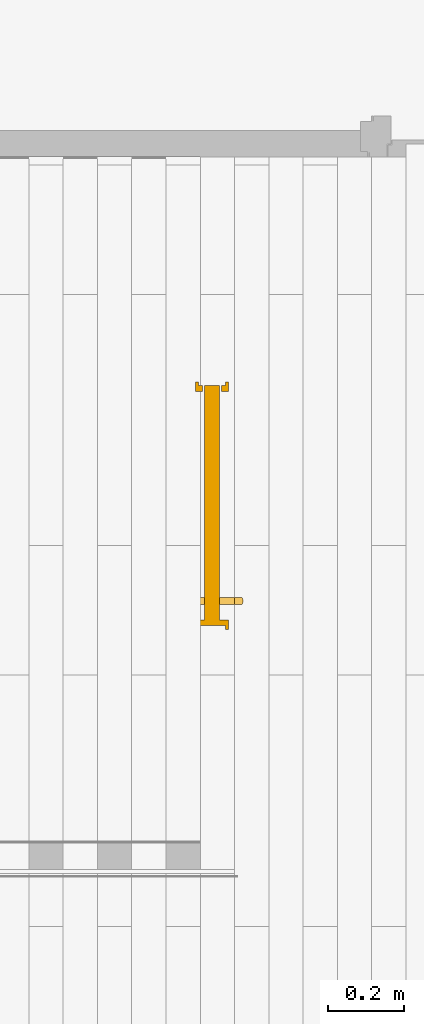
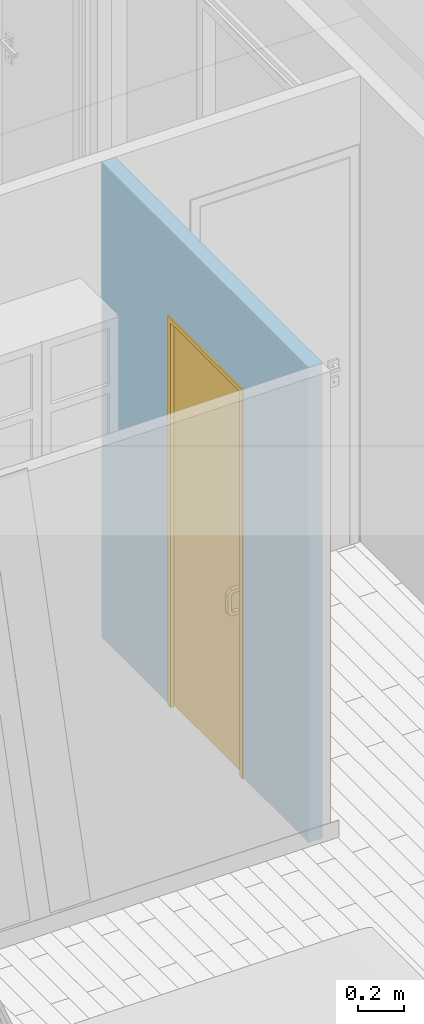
# One storey, part 49 of 61: 1 door, 1 opening, plus 1 element that does not belong to this part.
"""IFC2X3 building model written with IfcOpenShell, lengths in metres."""

import ifcopenshell
import ifcopenshell.guid

model = None  # the IFC model being written
_history = None  # IfcOwnerHistory: only IFC2X3 demands one
_inside = {}  # id of a spatial element -> (the spatial element, [elements in it])
_under = {}  # id of a project, library or spatial element -> (it, [spatial elements below it])
_declared = {}  # id of a project -> (the project, [libraries it declares])
_typed = {}  # id of a type object -> (the type object, [elements of that type])
_made_of = {}  # id of a material, layer set ... -> (it, [elements and type objects made of it])


def new_model(schema):
    """Start an empty IFC model of exactly this schema.

    Asked for "IFC4X3", IfcOpenShell would pick the latest addendum, in which some entities
    have other attributes; the version numbers below select the first issue.
    IFC2X3 requires an IfcOwnerHistory on every rooted entity: one is made here for all.
    """
    global model, _history
    if schema == "IFC4X3":
        model = ifcopenshell.file(schema_version=(4, 3, 0, 0))
    else:
        model = ifcopenshell.file(schema=schema)
    _inside.clear()
    _under.clear()
    _declared.clear()
    _typed.clear()
    _made_of.clear()
    _history = None
    if model.schema == "IFC2X3":
        org = make("IfcOrganization", Name="unknown")
        user = make(
            "IfcPersonAndOrganization",
            ThePerson=make("IfcPerson", FamilyName="unknown"),
            TheOrganization=org,
        )
        app = make(
            "IfcApplication",
            ApplicationDeveloper=org,
            Version="unknown",
            ApplicationFullName="unknown",
            ApplicationIdentifier="unknown",
        )
        _history = make(
            "IfcOwnerHistory",
            OwningUser=user,
            OwningApplication=app,
            ChangeAction="ADDED",
            CreationDate=0,
        )
    return model


def make(cls, **values):
    """One entity of the class cls with the attributes given. An attribute that is None is left unset."""
    return model.create_entity(
        cls, **{name: value for name, value in values.items() if value is not None}
    )


def entity(cls, *values):
    """Any entity or typed value of the class cls, its attributes in the order of the schema. None: left unset."""
    e = model.create_entity(cls)
    for i, value in enumerate(values):
        if value is not None:
            e[i] = value
    return e


def rooted(cls, **values):
    """An entity with a GlobalId (a new one), such as an element, a storey or a relation."""
    return make(cls, GlobalId=ifcopenshell.guid.new(), OwnerHistory=_history, **values)


def si_unit(unit_type, name, prefix=None):
    """IfcSIUnit, for example si_unit("LENGTHUNIT", "METRE", prefix="MILLI")."""
    return make("IfcSIUnit", UnitType=unit_type, Prefix=prefix, Name=name)


def converted_unit(unit_type, name, factor, base, dimensions=None, offset=None):
    """IfcConversionBasedUnit, such as the inch: factor (a typed value) times the base unit."""
    return make(
        "IfcConversionBasedUnit"
        if offset is None
        else "IfcConversionBasedUnitWithOffset",
        ConversionOffset=offset,
        Dimensions=None
        if dimensions is None
        else entity("IfcDimensionalExponents", *dimensions),
        UnitType=unit_type,
        Name=name,
        ConversionFactor=make(
            "IfcMeasureWithUnit", ValueComponent=factor, UnitComponent=base
        ),
    )


def derived_unit(unit_type, elements):
    """IfcDerivedUnit: a product of units, each with its exponent."""
    return make(
        "IfcDerivedUnit",
        Elements=[
            make("IfcDerivedUnitElement", Unit=unit, Exponent=power)
            for unit, power in elements
        ],
        UnitType=unit_type,
    )


def assignment(units):
    """IfcUnitAssignment: the units of a project."""
    return None if units is None else make("IfcUnitAssignment", Units=units)


def point(xyz):
    """IfcCartesianPoint."""
    return None if xyz is None else make("IfcCartesianPoint", Coordinates=xyz)


def direction(xyz):
    """IfcDirection."""
    return None if xyz is None else make("IfcDirection", DirectionRatios=xyz)


def frame(location, z_axis=None, x_axis=None):
    """IfcAxis2Placement3D, a coordinate frame: its origin and axes. An axis left out is left unset."""
    return make(
        "IfcAxis2Placement3D",
        Location=point(location),
        Axis=direction(z_axis),
        RefDirection=direction(x_axis),
    )


def frame_2d(location, x_axis=None):
    """IfcAxis2Placement2D, a coordinate frame in the plane: its origin and x axis."""
    return make(
        "IfcAxis2Placement2D", Location=point(location), RefDirection=direction(x_axis)
    )


def origin():
    """The frame at (0, 0, 0) with its axes left unset."""
    return frame((0.0, 0.0, 0.0))


def place(relative_to, where):
    """IfcLocalPlacement: puts the frame where relative to a parent placement (None: the world)."""
    return make(
        "IfcLocalPlacement", PlacementRelTo=relative_to, RelativePlacement=where
    )


def context(
    kind, dimensions, precision=None, world=None, true_north=None, identifier=None
):
    """IfcGeometricRepresentationContext, for example the 3D "Model" context."""
    return make(
        "IfcGeometricRepresentationContext",
        ContextIdentifier=identifier,
        ContextType=kind,
        CoordinateSpaceDimension=dimensions,
        Precision=precision,
        WorldCoordinateSystem=world,
        TrueNorth=true_north,
    )


def subcontext(parent, identifier, kind, view, scale=None):
    """IfcGeometricRepresentationSubContext, for example "Body" below "Model"."""
    return make(
        "IfcGeometricRepresentationSubContext",
        ContextIdentifier=identifier,
        ContextType=kind,
        ParentContext=parent,
        TargetScale=scale,
        TargetView=view,
    )


def project(units=None, contexts=None):
    """IfcProject with its units and contexts."""
    return rooted(
        "IfcProject",
        Name="project",
        RepresentationContexts=contexts,
        UnitsInContext=assignment(units),
    )


def spatial(cls, under=None, at=None, **own):
    """A site, building, storey or space (cls), placed at a placement, below another one or the project."""
    s = rooted(cls, ObjectPlacement=at, **own)
    if under is not None:
        _under.setdefault(under.id(), (under, []))[1].append(s)
    return s


def profile(cls, at=None, kind="AREA", **sizes):
    """A parametric profile (cls). Its sizes go by their IFC names, for example OverallWidth=200.0."""
    return make(cls, ProfileType=kind, Position=at, **sizes)


def rectangle(**sizes):
    """IfcRectangleProfileDef."""
    return profile("IfcRectangleProfileDef", **sizes)


def extrude(swept, where, along, depth):
    """IfcExtrudedAreaSolid: the profile swept, set in the frame where, extruded along a direction by depth."""
    return make(
        "IfcExtrudedAreaSolid",
        SweptArea=swept,
        Position=where,
        ExtrudedDirection=direction(along),
        Depth=depth,
    )


def faces_of(points, faces, orient=None, outer=None):
    """IfcFace entities. A face is a list of loops; a loop is a list of indices into points, from 0.

    orient and outer hold one flag for each loop. By default every Orientation is true, the
    first loop of a face is its IfcFaceOuterBound and the others are IfcFaceBound.
    """
    made = []
    for i, loops in enumerate(faces):
        bounds = []
        for j, loop in enumerate(loops):
            is_outer = j == 0 if outer is None else outer[i][j]
            bounds.append(
                make(
                    "IfcFaceOuterBound" if is_outer else "IfcFaceBound",
                    Bound=make("IfcPolyLoop", Polygon=[points[k] for k in loop]),
                    Orientation=True if orient is None else orient[i][j],
                )
            )
        made.append(make("IfcFace", Bounds=bounds))
    return made


def faceted_brep(points, faces, orient=None, outer=None, voids=None):
    """IfcFacetedBrep: a solid bounded by flat faces; with voids (closed shells), ...WithVoids."""
    shared = [point(p) for p in points]
    hull = make("IfcClosedShell", CfsFaces=faces_of(shared, faces, orient, outer))
    if voids is None:
        return make("IfcFacetedBrep", Outer=hull)
    return make(
        "IfcFacetedBrepWithVoids",
        Outer=hull,
        Voids=[
            make(cls, CfsFaces=faces_of(shared, fs, o, b)) for cls, fs, o, b in voids
        ],
    )


def shape(context_of_items, identifier, shape_type, items):
    """IfcShapeRepresentation: the items that make up one representation, for example the "Body"."""
    return make(
        "IfcShapeRepresentation",
        ContextOfItems=context_of_items,
        RepresentationIdentifier=identifier,
        RepresentationType=shape_type,
        Items=items,
    )


def source(mapping_origin, context_of_items, identifier, shape_type, items):
    """IfcRepresentationMap: a shape defined once, which mapped items show again and again."""
    return make(
        "IfcRepresentationMap",
        MappingOrigin=mapping_origin,
        MappedRepresentation=shape(context_of_items, identifier, shape_type, items),
    )


def transform(
    local_origin,
    x_axis=None,
    y_axis=None,
    z_axis=None,
    scale=None,
    scale2=None,
    scale3=None,
    uniform=True,
):
    """IfcCartesianTransformationOperator3D, or its non-uniform kind. x_axis, y_axis, z_axis: its Axis1, 2, 3."""
    if uniform:
        return make(
            "IfcCartesianTransformationOperator3D",
            Axis1=direction(x_axis),
            Axis2=direction(y_axis),
            LocalOrigin=point(local_origin),
            Scale=scale,
            Axis3=direction(z_axis),
        )
    return make(
        "IfcCartesianTransformationOperator3DnonUniform",
        Axis1=direction(x_axis),
        Axis2=direction(y_axis),
        LocalOrigin=point(local_origin),
        Scale=scale,
        Axis3=direction(z_axis),
        Scale2=scale2,
        Scale3=scale3,
    )


def mapped(mapping_source, mapping_target):
    """IfcMappedItem: shows the shape of a source again, moved by a transform."""
    return make(
        "IfcMappedItem", MappingSource=mapping_source, MappingTarget=mapping_target
    )


def material(Name=None, Category=None):
    """IfcMaterial."""
    return make("IfcMaterial", Name=Name, Category=Category)


def material_list(materials):
    """IfcMaterialList."""
    return make("IfcMaterialList", Materials=materials)


def layer(
    of_material, thickness, ventilated=None, Name=None, Category=None, Priority=None
):
    """IfcMaterialLayer: one layer of a wall or slab, of a material (None: an air gap)."""
    return make(
        "IfcMaterialLayer",
        Material=of_material,
        LayerThickness=thickness,
        IsVentilated=ventilated,
        Name=Name,
        Category=Category,
        Priority=Priority,
    )


def layer_set(layers, Name=None):
    """IfcMaterialLayerSet."""
    return make("IfcMaterialLayerSet", MaterialLayers=layers, LayerSetName=Name)


def layer_usage(for_layer_set, set_direction, sense, offset, extent=None):
    """IfcMaterialLayerSetUsage: how a layer set lies in its element."""
    return make(
        "IfcMaterialLayerSetUsage",
        ForLayerSet=for_layer_set,
        LayerSetDirection=set_direction,
        DirectionSense=sense,
        OffsetFromReferenceLine=offset,
        ReferenceExtent=extent,
    )


def made_of(thing, what):
    """Note that an element or type object is made of a material, layer set ...; save() writes the relation."""
    if what is not None:
        _made_of.setdefault(what.id(), (what, []))[1].append(thing)
    return thing


def type_object(cls, material=None, **own):
    """A type object (cls), such as IfcWallType, which elements share."""
    return made_of(rooted(cls, **own), material)


def type_shapes(of_type, sources):
    """Give a type object the sources (RepresentationMaps) that its elements show as mapped items."""
    of_type.RepresentationMaps = sources


def element(
    cls,
    number,
    at=None,
    inside=None,
    cuts=None,
    type_object=None,
    material=None,
    context=None,
    identifier="Body",
    shape_type=None,
    held_by="IfcProductDefinitionShape",
    body=None,
    shapes=None,
    **own,
):
    """One element of the class cls, such as IfcWall. Its Tag is "e" and its number.

    at: its placement. inside: the storey or other place that contains it. cuts: it is an
    opening in that element (IfcRelVoidsElement). A single representation is given by context,
    identifier, shape_type and body (its items); several are given by shapes. held_by: the class
    of the entity that holds the representations. save() writes the other relations.
    """
    e = rooted(cls, Tag="e%d" % number, ObjectPlacement=at, **own)
    if body is not None:
        shapes = [shape(context, identifier, shape_type, body)]
    if shapes is not None:
        e.Representation = make(held_by, Representations=shapes)
    if inside is not None:
        _inside.setdefault(inside.id(), (inside, []))[1].append(e)
    if cuts is not None:
        rooted(
            "IfcRelVoidsElement", RelatingBuildingElement=cuts, RelatedOpeningElement=e
        )
    if type_object is not None:
        _typed.setdefault(type_object.id(), (type_object, []))[1].append(e)
    return made_of(e, material)


def fill(opening, filler):
    """IfcRelFillsElement: the door or window that sits in an opening."""
    return rooted(
        "IfcRelFillsElement",
        RelatingOpeningElement=opening,
        RelatedBuildingElement=filler,
    )


def aggregate(whole, parts):
    """IfcRelAggregates: a whole, such as a stair, and the parts it consists of."""
    return rooted("IfcRelAggregates", RelatingObject=whole, RelatedObjects=parts)


def save(model, path):
    """Write the relations noted so far, then the file.

    IfcRelAggregates (storeys below a building ...), IfcRelContainedInSpatialStructure (elements
    in a storey), IfcRelDefinesByType, IfcRelAssociatesMaterial and IfcRelDeclares: one each for
    every whole, place, type object, material and project.
    """
    for whole, parts in _under.values():
        aggregate(whole, parts)
    for where, things in _inside.values():
        rooted(
            "IfcRelContainedInSpatialStructure",
            RelatedElements=things,
            RelatingStructure=where,
        )
    for kind, things in _typed.values():
        rooted("IfcRelDefinesByType", RelatedObjects=things, RelatingType=kind)
    for what, things in _made_of.values():
        rooted("IfcRelAssociatesMaterial", RelatedObjects=things, RelatingMaterial=what)
    for by, libraries in _declared.values():
        rooted("IfcRelDeclares", RelatingContext=by, RelatedDefinitions=libraries)
    model.write(path)


model = new_model("IFC2X3")

# Units and contexts
model_context = context("Model", 3, precision=1e-05, world=origin(), true_north=direction((6.12303176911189e-17, 1.0)))
body_context = subcontext(model_context, "Body", "Model", "MODEL_VIEW")
ifc_project = project(units=[si_unit("LENGTHUNIT", "METRE"), si_unit("AREAUNIT", "SQUARE_METRE"), si_unit("VOLUMEUNIT", "CUBIC_METRE"), converted_unit("PLANEANGLEUNIT", "DEGREE", entity("IfcRatioMeasure", 0.0174532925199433), si_unit("PLANEANGLEUNIT", "RADIAN"), dimensions=[0, 0, 0, 0, 0, 0, 0]), si_unit("MASSUNIT", "GRAM", prefix="KILO"), derived_unit("MASSDENSITYUNIT", [(si_unit("MASSUNIT", "GRAM", prefix="KILO"), 1), (si_unit("LENGTHUNIT", "METRE"), -3)]), si_unit("TIMEUNIT", "SECOND"), si_unit("FREQUENCYUNIT", "HERTZ"), si_unit("THERMODYNAMICTEMPERATUREUNIT", "DEGREE_CELSIUS"), derived_unit("THERMALTRANSMITTANCEUNIT", [(si_unit("MASSUNIT", "GRAM", prefix="KILO"), 1), (si_unit("THERMODYNAMICTEMPERATUREUNIT", "KELVIN"), -1), (si_unit("TIMEUNIT", "SECOND"), -3)]), derived_unit("VOLUMETRICFLOWRATEUNIT", [(si_unit("LENGTHUNIT", "METRE"), 3), (si_unit("TIMEUNIT", "SECOND"), -1)]), si_unit("ELECTRICCURRENTUNIT", "AMPERE"), si_unit("ELECTRICVOLTAGEUNIT", "VOLT"), si_unit("POWERUNIT", "WATT"), si_unit("FORCEUNIT", "NEWTON", prefix="KILO"), si_unit("ILLUMINANCEUNIT", "LUX"), si_unit("LUMINOUSFLUXUNIT", "LUMEN"), si_unit("LUMINOUSINTENSITYUNIT", "CANDELA"), derived_unit("USERDEFINED", [(si_unit("MASSUNIT", "GRAM", prefix="KILO"), -1), (si_unit("LENGTHUNIT", "METRE"), -2), (si_unit("TIMEUNIT", "SECOND"), 3), (si_unit("LUMINOUSFLUXUNIT", "LUMEN"), 1)]), derived_unit("LINEARVELOCITYUNIT", [(si_unit("LENGTHUNIT", "METRE"), 1), (si_unit("TIMEUNIT", "SECOND"), -1)]), si_unit("PRESSUREUNIT", "PASCAL"), derived_unit("USERDEFINED", [(si_unit("LENGTHUNIT", "METRE"), -2), (si_unit("MASSUNIT", "GRAM", prefix="KILO"), 1), (si_unit("TIMEUNIT", "SECOND"), -2)])], contexts=[model_context])

# Site, building, storey
site_placement = place(None, origin())
site = spatial("IfcSite", under=ifc_project, at=site_placement, Name="Surface", CompositionType="ELEMENT")
building_placement = place(site_placement, origin())
building = spatial("IfcBuilding", under=site, at=building_placement, CompositionType="ELEMENT")
storey_placement = place(building_placement, frame((0.0, 0.0, 2.82)))
storey = spatial("IfcBuildingStorey", under=building, at=storey_placement, Name="ETAGE", CompositionType="ELEMENT", Elevation=2.82)

# Wall, opening, door
ifc_material_1 = material(Name="Peinture - Blanc")
ifc_layer = layer(ifc_material_1, 0.07)
ifc_layer_set = layer_set([ifc_layer], Name="Mur de base:Int.  Platre 70 mm en blanc")
ifc_layer_usage = layer_usage(ifc_layer_set, "AXIS2", "NEGATIVE", 0.035)
wall_type = type_object("IfcWallType", Name="Mur de base:Int.  Platre 70 mm en blanc", PredefinedType="STANDARD", material=ifc_layer_set)
wall_placement = place(storey_placement, frame((86.3617857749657, 86.6075239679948, 0.0), z_axis=(0.0, 0.0, 1.0), x_axis=(0.0, -1.0, 0.0)))
wall = element("IfcWallStandardCase", 1, at=wall_placement, inside=storey, type_object=wall_type, material=ifc_layer_usage, Name="Mur de base:Int.  Platre 70 mm en blanc", ObjectType="Mur de base:Int.  Platre 70 mm en blanc", context=body_context, shape_type="SweptSolid", body=[
    extrude(rectangle(XDim=1.80000000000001, YDim=0.0699999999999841, at=frame_2d((0.900000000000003, 0.0), x_axis=(-1.0, 0.0))), origin(), (0.0, 0.0, 1.0), 2.52),
])
opening_placement = place(wall_placement, frame((1.22999999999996, -0.185000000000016, 0.0), z_axis=(0.0, 0.0, 1.0), x_axis=(0.0, 1.0, 0.0)))
opening = element("IfcOpeningElement", 2, at=opening_placement, cuts=wall, Name="Mur de base:Int.  Platre 70 mm en blanc", ObjectType="Opening", context=body_context, shape_type="Brep", body=[
    faceted_brep([(0.370000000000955, 0.0, 2.055), (0.0, 0.0, 2.055), (0.0, 0.0, 0.0), (0.370000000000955, 0.0, 0.0), (0.370000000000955, 0.629999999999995, 2.055), (0.370000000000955, 0.629999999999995, 0.0), (0.210000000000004, 0.629999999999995, 2.055), (0.210000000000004, 0.629999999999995, 0.0), (0.210000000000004, 1.23, 2.055), (0.210000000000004, 1.23, 0.0), (0.159999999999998, 1.23, 2.055), (0.159999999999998, 1.23, 0.0), (0.159999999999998, 0.629999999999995, 2.055), (0.159999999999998, 0.629999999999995, 0.0), (0.0, 0.629999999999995, 2.055), (0.0, 0.629999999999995, 0.0)], [[[0, 1, 2, 3]], [[4, 0, 3, 5]], [[6, 4, 5, 7]], [[8, 6, 7, 9]], [[10, 8, 9, 11]], [[12, 10, 11, 13]], [[14, 1, 0, 4, 6, 8, 10, 12]], [[15, 13, 11, 9, 7, 5, 3, 2]], [[1, 14, 15, 2]], [[14, 12, 13, 15]]]),
])
ifc_material_2 = material(Name="Porte - Poignée")
ifc_material_3 = material(Name="Porte - Panneau")
ifc_material_4 = material(Name="Porte - Cadre")
ifc_material_list_1 = material_list([ifc_material_2, ifc_material_3, ifc_material_4])
ifc_material_list_2 = material_list([ifc_material_2, ifc_material_3, ifc_material_4])
door_style = type_object("IfcDoorStyle", Name="0.60m x 2.04m 3", ConstructionType="NOTDEFINED", OperationType="NOTDEFINED", ParameterTakesPrecedence=False, Sizeable=False, material=ifc_material_list_2)
shared_shape = source(origin(), body_context, "Body", "Brep", [
    faceted_brep([(1.16963922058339, -0.165000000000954, 0.949316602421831), (1.174, -0.165000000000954, 0.951000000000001), (1.174, -0.165000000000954, 0.969), (1.16963922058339, -0.165000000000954, 0.97068339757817), (1.165, -0.165000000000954, 0.971255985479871), (1.16036077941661, -0.165000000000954, 0.97068339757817), (1.156, -0.165000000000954, 0.969), (1.156, -0.165000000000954, 0.951000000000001), (1.16036077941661, -0.165000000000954, 0.94931660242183), (1.165, -0.165000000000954, 0.94874401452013), (1.16963922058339, -0.16500000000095, 0.829316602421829), (1.174, -0.16500000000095, 0.831), (1.174, -0.16500000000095, 0.848999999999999), (1.16963922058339, -0.16500000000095, 0.850683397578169), (1.165, -0.16500000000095, 0.85125598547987), (1.16036077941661, -0.16500000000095, 0.850683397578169), (1.156, -0.16500000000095, 0.848999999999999), (1.156, -0.16500000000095, 0.831), (1.16036077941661, -0.16500000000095, 0.829316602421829), (1.165, -0.16500000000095, 0.828744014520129), (1.156, -0.133727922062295, 0.848999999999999), (1.156, -0.124000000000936, 0.858727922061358), (1.156, -0.124000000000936, 0.941272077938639), (1.156, -0.133727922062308, 0.951000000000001), (1.156, -0.126272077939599, 0.969), (1.156, -0.106000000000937, 0.948727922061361), (1.156, -0.106000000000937, 0.851272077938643), (1.156, -0.126272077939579, 0.831), (1.16036077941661, -0.125574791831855, 0.97068339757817), (1.165, -0.12533761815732, 0.971255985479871), (1.16963922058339, -0.125574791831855, 0.97068339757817), (1.174, -0.126272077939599, 0.969), (1.174, -0.133727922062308, 0.951000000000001), (1.174, -0.124000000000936, 0.941272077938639), (1.174, -0.124000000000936, 0.858727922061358), (1.174, -0.133727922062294, 0.848999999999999), (1.174, -0.126272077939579, 0.831), (1.174, -0.106000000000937, 0.851272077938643), (1.174, -0.106000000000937, 0.948727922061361), (1.16963922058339, -0.134425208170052, 0.949316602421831), (1.165, -0.134662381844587, 0.94874401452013), (1.16036077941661, -0.134425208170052, 0.94931660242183), (1.16036077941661, -0.104316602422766, 0.949425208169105), (1.165, -0.103744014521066, 0.949662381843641), (1.16963922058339, -0.104316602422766, 0.949425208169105), (1.16963922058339, -0.125683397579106, 0.940574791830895), (1.165, -0.126255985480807, 0.940337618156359), (1.16036077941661, -0.125683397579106, 0.940574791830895), (1.16036077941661, -0.104316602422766, 0.850574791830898), (1.165, -0.103744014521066, 0.850337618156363), (1.16963922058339, -0.104316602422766, 0.850574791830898), (1.16963922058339, -0.125683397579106, 0.859425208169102), (1.165, -0.126255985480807, 0.859662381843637), (1.16036077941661, -0.125683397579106, 0.859425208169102), (1.16036077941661, -0.125574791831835, 0.829316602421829), (1.165, -0.1253376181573, 0.828744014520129), (1.16963922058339, -0.125574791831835, 0.829316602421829), (1.16963922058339, -0.134425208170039, 0.850683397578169), (1.165, -0.134662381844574, 0.85125598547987), (1.16036077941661, -0.134425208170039, 0.850683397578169)], [[[0, 1, 2, 3, 4, 5, 6, 7, 8, 9]], [[10, 11, 12, 13, 14, 15, 16, 17, 18, 19]], [[16, 20, 21, 22, 23, 7, 6, 24, 25, 26, 27, 17]], [[5, 28, 24, 6]], [[4, 29, 28, 5]], [[4, 3, 30, 29]], [[2, 31, 30, 3]], [[1, 32, 33, 34, 35, 12, 11, 36, 37, 38, 31, 2]], [[1, 0, 39, 32]], [[40, 39, 0, 9]], [[7, 23, 41, 8]], [[40, 9, 8, 41]], [[24, 28, 42, 25]], [[29, 43, 42, 28]], [[30, 44, 43, 29]], [[30, 31, 38, 44]], [[32, 39, 45, 33]], [[46, 45, 39, 40]], [[41, 23, 22, 47]], [[47, 46, 40, 41]], [[42, 48, 26, 25]], [[43, 49, 48, 42]], [[44, 50, 49, 43]], [[44, 38, 37, 50]], [[45, 51, 34, 33]], [[51, 45, 46, 52]], [[22, 21, 53, 47]], [[52, 46, 47, 53]], [[26, 48, 54, 27]], [[49, 55, 54, 48]], [[50, 56, 55, 49]], [[50, 37, 36, 56]], [[34, 51, 57, 35]], [[58, 57, 51, 52]], [[53, 21, 20, 59]], [[59, 58, 52, 53]], [[27, 54, 18, 17]], [[19, 18, 54, 55]], [[36, 11, 10, 56]], [[19, 55, 56, 10]], [[57, 13, 12, 35]], [[13, 57, 58, 14]], [[59, 20, 16, 15]], [[15, 14, 58, 59]]]),
    faceted_brep([(1.165, -0.205000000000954, 0.971255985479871), (1.16963922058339, -0.205000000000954, 0.97068339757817), (1.174, -0.205000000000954, 0.969), (1.174, -0.205000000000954, 0.951000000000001), (1.16963922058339, -0.205000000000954, 0.94931660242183), (1.165, -0.205000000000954, 0.94874401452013), (1.16036077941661, -0.205000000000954, 0.94931660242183), (1.156, -0.205000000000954, 0.951000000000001), (1.156, -0.205000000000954, 0.969), (1.16036077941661, -0.205000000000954, 0.97068339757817), (1.16963922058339, -0.205000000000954, 0.850683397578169), (1.174, -0.205000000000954, 0.848999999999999), (1.174, -0.205000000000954, 0.831), (1.16963922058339, -0.205000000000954, 0.829316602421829), (1.165, -0.205000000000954, 0.828744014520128), (1.16036077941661, -0.205000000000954, 0.829316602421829), (1.156, -0.205000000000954, 0.831), (1.156, -0.205000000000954, 0.848999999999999), (1.16036077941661, -0.205000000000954, 0.850683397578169), (1.165, -0.205000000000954, 0.85125598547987), (1.16963922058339, -0.244425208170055, 0.97068339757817), (1.174, -0.243727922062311, 0.969), (1.165, -0.244662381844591, 0.971255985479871), (1.16036077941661, -0.244425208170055, 0.970683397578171), (1.156, -0.243727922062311, 0.969), (1.156, -0.23627207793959, 0.951000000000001), (1.156, -0.246000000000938, 0.941272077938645), (1.156, -0.246000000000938, 0.858727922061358), (1.156, -0.236272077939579, 0.848999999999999), (1.156, -0.243727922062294, 0.831), (1.156, -0.264000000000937, 0.851272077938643), (1.156, -0.264000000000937, 0.948727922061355), (1.16036077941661, -0.235574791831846, 0.94931660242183), (1.165, -0.23533761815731, 0.94874401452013), (1.174, -0.23627207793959, 0.951000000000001), (1.16963922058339, -0.235574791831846, 0.94931660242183), (1.174, -0.236272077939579, 0.848999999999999), (1.174, -0.246000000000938, 0.858727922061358), (1.174, -0.246000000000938, 0.941272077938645), (1.174, -0.264000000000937, 0.948727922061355), (1.174, -0.264000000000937, 0.851272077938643), (1.174, -0.243727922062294, 0.831), (1.16963922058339, -0.265683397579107, 0.949425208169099), (1.165, -0.266255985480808, 0.949662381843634), (1.16036077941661, -0.265683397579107, 0.949425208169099), (1.16036077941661, -0.244316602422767, 0.940574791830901), (1.165, -0.243744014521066, 0.940337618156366), (1.16963922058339, -0.244316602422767, 0.940574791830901), (1.16963922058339, -0.265683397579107, 0.850574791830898), (1.165, -0.266255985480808, 0.850337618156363), (1.16036077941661, -0.265683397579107, 0.850574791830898), (1.16036077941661, -0.244316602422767, 0.859425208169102), (1.165, -0.243744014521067, 0.859662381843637), (1.16963922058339, -0.244316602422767, 0.859425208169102), (1.16963922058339, -0.244425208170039, 0.829316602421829), (1.165, -0.244662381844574, 0.828744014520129), (1.16036077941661, -0.244425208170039, 0.829316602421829), (1.16036077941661, -0.235574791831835, 0.850683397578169), (1.165, -0.2353376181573, 0.85125598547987), (1.16963922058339, -0.235574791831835, 0.850683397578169)], [[[0, 1, 2, 3, 4, 5, 6, 7, 8, 9]], [[10, 11, 12, 13, 14, 15, 16, 17, 18, 19]], [[1, 20, 21, 2]], [[0, 22, 20, 1]], [[0, 9, 23, 22]], [[8, 24, 23, 9]], [[7, 25, 26, 27, 28, 17, 16, 29, 30, 31, 24, 8]], [[7, 6, 32, 25]], [[33, 32, 6, 5]], [[3, 34, 35, 4]], [[33, 5, 4, 35]], [[11, 36, 37, 38, 34, 3, 2, 21, 39, 40, 41, 12]], [[20, 42, 39, 21]], [[22, 43, 42, 20]], [[23, 44, 43, 22]], [[23, 24, 31, 44]], [[25, 32, 45, 26]], [[46, 45, 32, 33]], [[35, 34, 38, 47]], [[47, 46, 33, 35]], [[42, 48, 40, 39]], [[43, 49, 48, 42]], [[44, 50, 49, 43]], [[44, 31, 30, 50]], [[45, 51, 27, 26]], [[51, 45, 46, 52]], [[38, 37, 53, 47]], [[52, 46, 47, 53]], [[48, 54, 41, 40]], [[49, 55, 54, 48]], [[50, 56, 55, 49]], [[50, 30, 29, 56]], [[27, 51, 57, 28]], [[58, 57, 51, 52]], [[53, 37, 36, 59]], [[59, 58, 52, 53]], [[41, 54, 13, 12]], [[14, 13, 54, 55]], [[29, 16, 15, 56]], [[14, 55, 56, 15]], [[57, 18, 17, 28]], [[18, 57, 58, 19]], [[59, 36, 11, 10]], [[10, 19, 58, 59]]]),
    faceted_brep([(1.215, -0.205000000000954, 2.04), (1.215, -0.165000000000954, 2.04), (0.6, -0.165000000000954, 2.04), (0.6, -0.205000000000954, 2.04), (1.215, -0.205000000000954, 0.0), (0.6, -0.205000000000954, 0.0), (0.6, -0.165000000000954, 0.0), (1.215, -0.165000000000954, 0.0)], [[[0, 1, 2, 3]], [[4, 5, 6, 7]], [[1, 0, 4, 7]], [[2, 1, 7, 6]], [[3, 2, 6, 5]], [[0, 3, 5, 4]]]),
    faceted_brep([(0.6, -0.149999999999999, 0.0), (0.59, -0.149999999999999, 0.0), (0.59, -0.142000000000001, 0.0), (0.615, -0.142000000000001, 0.0), (0.615, -0.160000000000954, 0.0), (0.6, -0.160000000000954, 0.0), (0.6, -0.149999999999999, 2.055), (1.23, -0.149999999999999, 2.055), (1.23, -0.149999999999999, 0.0), (1.24, -0.149999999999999, 0.0), (1.24, -0.149999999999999, 2.065), (0.59, -0.149999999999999, 2.065), (0.59, -0.142000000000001, 2.065), (1.24, -0.142000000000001, 2.065), (1.24, -0.142000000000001, 0.0), (1.215, -0.142000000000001, 0.0), (1.215, -0.142000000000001, 2.04), (0.614999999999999, -0.142000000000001, 2.04), (0.614999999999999, -0.160000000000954, 2.04), (0.6, -0.160000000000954, 2.04), (0.6, -0.220000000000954, 0.0), (0.6, -0.220000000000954, 2.055), (0.6, -0.210000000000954, 2.04), (0.6, -0.210000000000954, 0.0), (0.59, -0.228000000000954, 0.0), (0.615, -0.228000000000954, 0.0), (0.615, -0.228000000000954, 2.04), (1.215, -0.228000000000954, 2.04), (1.215, -0.228000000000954, 0.0), (1.24, -0.228000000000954, 0.0), (1.24, -0.228000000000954, 2.065), (0.59, -0.228000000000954, 2.065), (0.59, -0.220000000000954, 0.0), (0.59, -0.220000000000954, 2.065), (1.24, -0.220000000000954, 2.065), (1.24, -0.220000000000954, 0.0), (1.23, -0.220000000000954, 0.0), (1.23, -0.220000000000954, 2.055), (0.614999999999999, -0.210000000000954, 2.04), (0.615, -0.210000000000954, 0.0)], [[[0, 1, 2, 3, 4, 5]], [[1, 0, 6, 7, 8, 9, 10, 11]], [[2, 1, 11, 12]], [[3, 2, 12, 13, 14, 15, 16, 17]], [[3, 17, 18, 4]], [[18, 19, 5, 4]], [[20, 21, 6, 0, 5, 19, 22, 23]], [[24, 25, 26, 27, 28, 29, 30, 31]], [[32, 24, 31, 33]], [[20, 32, 33, 34, 35, 36, 37, 21]], [[22, 38, 39, 23]], [[8, 7, 37, 36]], [[9, 8, 36, 35, 29, 28, 15, 14]], [[10, 9, 14, 13]], [[16, 15, 28, 27]], [[30, 29, 35, 34]], [[6, 21, 37, 7]], [[11, 10, 13, 12]], [[17, 16, 27, 26, 38, 22, 19, 18]], [[31, 30, 34, 33]], [[26, 25, 39, 38]], [[25, 24, 32, 20, 23, 39]]]),
])
type_shapes(door_style, [shared_shape])
door_placement = place(opening_placement, frame((0.370000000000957, 1.22999999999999, 0.0), z_axis=(0.0, 0.0, 1.0), x_axis=(0.0, -1.0, 0.0)))
door = element("IfcDoor", 3, at=door_placement, inside=storey, type_object=door_style, material=ifc_material_list_1, Name="Coulissante - Encastrée:0.60m x 2.04m 3", ObjectType="Coulissante - Encastrée:0.60m x 2.04m 3", OverallHeight=2.065, OverallWidth=1.24000000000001, context=body_context, shape_type="MappedRepresentation", body=[
    mapped(shared_shape, transform((0.0, 0.0, 0.0), scale=1.0)),
])
fill(opening, door)

save(model, "model.ifc")
